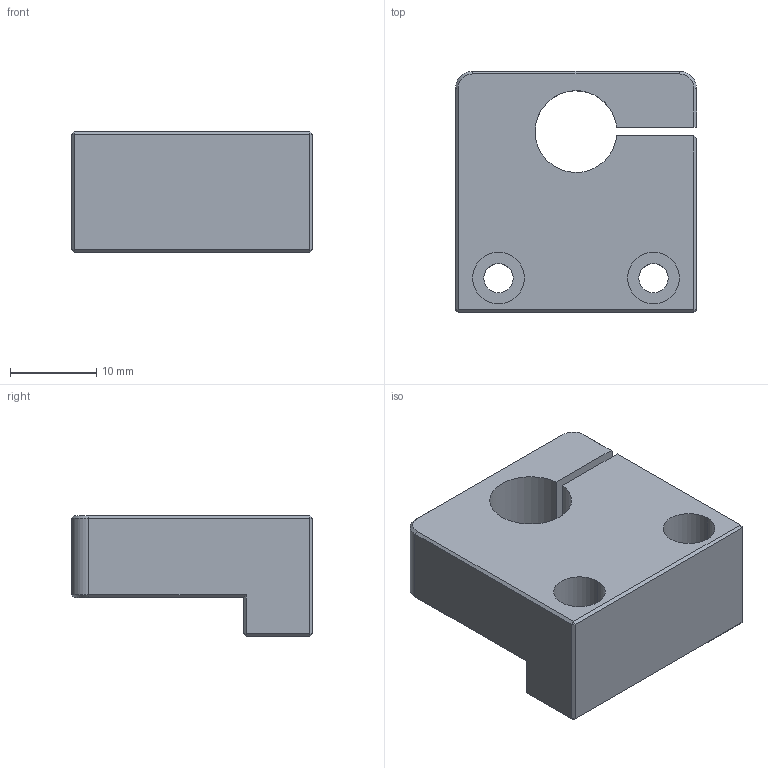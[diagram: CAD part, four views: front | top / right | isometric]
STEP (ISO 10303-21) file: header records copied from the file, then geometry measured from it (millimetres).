
FILE_DESCRIPTION (( 'STEP AP214' ), '1' );
FILE_NAME ('錨璃5.STEP', '2026-03-13T02:37:55', ( '' ), ( '' ), 'SwSTEP 2.0', 'SolidWorks 2024', '' );
FILE_SCHEMA (( 'AUTOMOTIVE_DESIGN' ));
Length unit declared in the file: millimetre
Products named in the file (1): 零件5
Bounding box: 28 x 28 x 14 mm (x, y, z)
Volume: 7018.4 mm3; surface area: 3664.3 mm2
Topology: 1 solids, 1 shells, 62 faces, 142 edges, 83 vertices
Faces by surface type: plane 38, cylinder 18, cone 6
Entity records: 1739 total; most frequent: DIRECTION 306, CARTESIAN_POINT 295, ORIENTED_EDGE 280, EDGE_CURVE 140, AXIS2_PLACEMENT_3D 104, LINE 98, VECTOR 98, VERTEX_POINT 83
